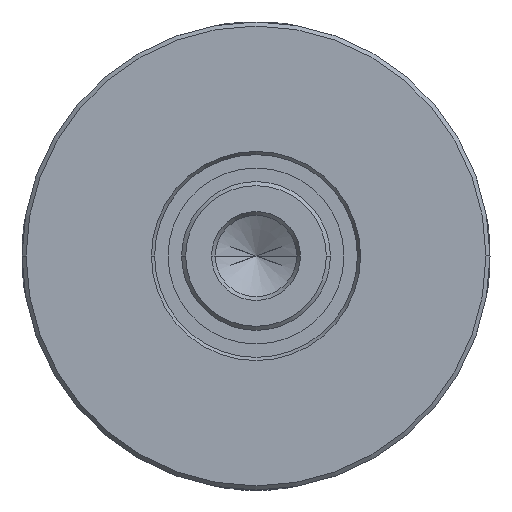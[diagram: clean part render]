
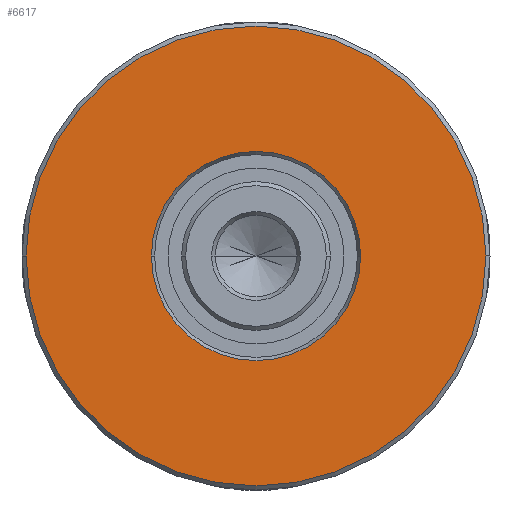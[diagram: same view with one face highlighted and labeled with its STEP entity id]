
A CAD part, left-side view. The second image highlights one B-rep face of the part: STEP entity #6617.
In plain terms, the highlighted planar face has unit normal (-1, 0, 0).
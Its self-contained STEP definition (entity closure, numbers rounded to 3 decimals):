
#6270=CARTESIAN_POINT('',(-2.,0.,
0.));
#6271=DIRECTION('',(1.,0.,0.));
#6272=DIRECTION('',(0.,-1.,0.));
#6273=AXIS2_PLACEMENT_3D('',#6270,#6271,#6272);
#6278=CARTESIAN_POINT('',(-2.,0.,
0.));
#6279=DIRECTION('',(1.,0.,0.));
#6280=DIRECTION('',(0.,1.,0.));
#6281=AXIS2_PLACEMENT_3D('',#6278,#6279,#6280);
#6286=CARTESIAN_POINT('',(-2.,0.,0.));
#6287=DIRECTION('',(1.,0.,0.));
#6288=DIRECTION('',(0.,1.,0.));
#6289=AXIS2_PLACEMENT_3D('',#6286,#6287,#6288);
#6308=CARTESIAN_POINT('',(-2.,0.,0.));
#6309=DIRECTION('',(-1.,0.,0.));
#6310=DIRECTION('',(0.,1.,0.));
#6311=AXIS2_PLACEMENT_3D('',#6308,#6309,#6310);
#6432=CARTESIAN_POINT('',(-2.,7.731,0.));
#6433=VERTEX_POINT('',#6432);
#6434=CARTESIAN_POINT('',(-2.,-7.731,0.));
#6435=VERTEX_POINT('',#6434);
#6436=CARTESIAN_POINT('',(-2.,-17.,0.));
#6437=CARTESIAN_POINT('',(-2.,17.,0.));
#6438=VERTEX_POINT('',#6436);
#6439=VERTEX_POINT('',#6437);
#6602=CARTESIAN_POINT('',(-2.,0.,0.));
#6603=DIRECTION('',(1.,0.,0.));
#6604=DIRECTION('',(0.,-1.,0.));
#6605=AXIS2_PLACEMENT_3D('',#6602,#6603,#6604);
#6606=PLANE('',#6605);
#6607=ORIENTED_EDGE('',*,*,#6582,.T.);
#6608=ORIENTED_EDGE('',*,*,#6596,.T.);
#6609=EDGE_LOOP('',(#6607,#6608));
#6610=FACE_OUTER_BOUND('',#6609,.F.);
#6612=ORIENTED_EDGE('',*,*,#6611,.F.);
#6614=ORIENTED_EDGE('',*,*,#6613,.T.);
#6615=EDGE_LOOP('',(#6612,#6614));
#6616=FACE_BOUND('',#6615,.F.);
#6274=CIRCLE('',#6273,17.);
#6282=CIRCLE('',#6281,17.);
#6290=CIRCLE('',#6289,7.731);
#6312=CIRCLE('',#6311,7.731);
#6582=EDGE_CURVE('',#6438,#6439,#6274,.T.);
#6596=EDGE_CURVE('',#6439,#6438,#6282,.T.);
#6611=EDGE_CURVE('',#6433,#6435,#6290,.T.);
#6613=EDGE_CURVE('',#6433,#6435,#6312,.T.);
#6617=ADVANCED_FACE('',(#6610,#6616),#6606,.F.);
